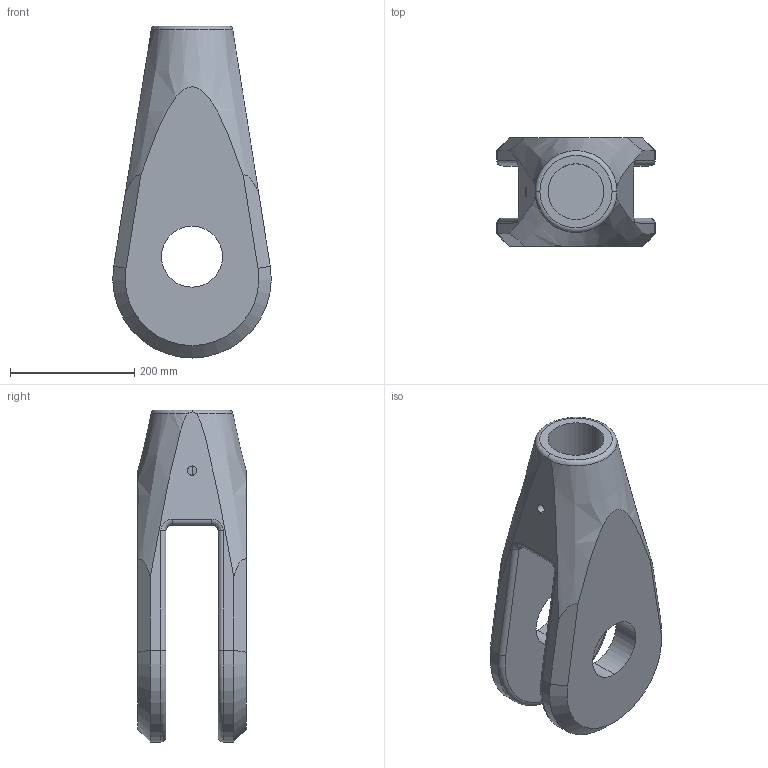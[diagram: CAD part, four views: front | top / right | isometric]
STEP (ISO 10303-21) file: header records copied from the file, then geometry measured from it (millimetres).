
FILE_DESCRIPTION (( 'STEP AP203' ), '1' );
FILE_NAME ('Gabelkopf M90.STEP', '2018-02-20T06:41:12', ( 'install' ), ( 'Hewlett-Packard Company' ), 'SwSTEP 2.0', 'SolidWorks 2017', '' );
FILE_SCHEMA (( 'CONFIG_CONTROL_DESIGN' ));
Length unit declared in the file: millimetre
Products named in the file (1): Gabelkopf M90
Bounding box: 254.97 x 174.2 x 534 mm (x, y, z)
Volume: 8663952.4 mm3; surface area: 524990.8 mm2
Topology: 1 solids, 1 shells, 47 faces, 115 edges, 70 vertices
Faces by surface type: cylinder 20, plane 13, cone 5, torus 5, bspline 4
Entity records: 2147 total; most frequent: CARTESIAN_POINT 995, ORIENTED_EDGE 230, DIRECTION 222, EDGE_CURVE 115, AXIS2_PLACEMENT_3D 89, VERTEX_POINT 70, EDGE_LOOP 53, ADVANCED_FACE 47
